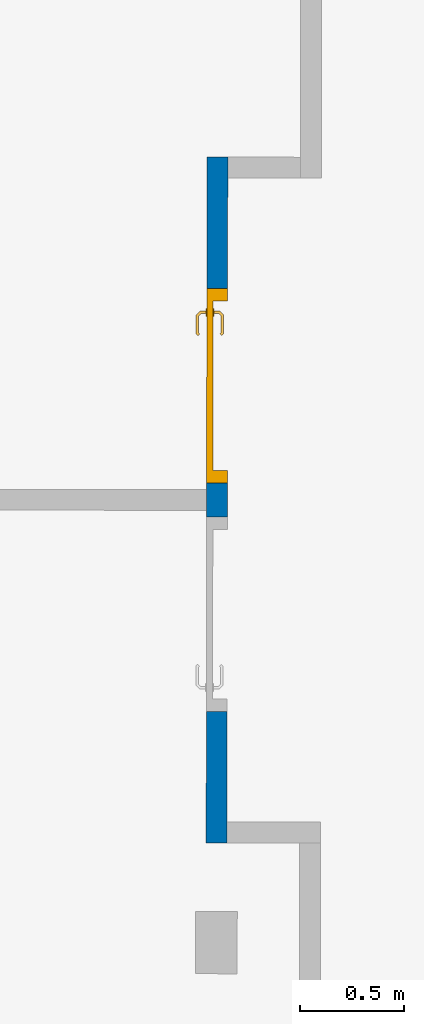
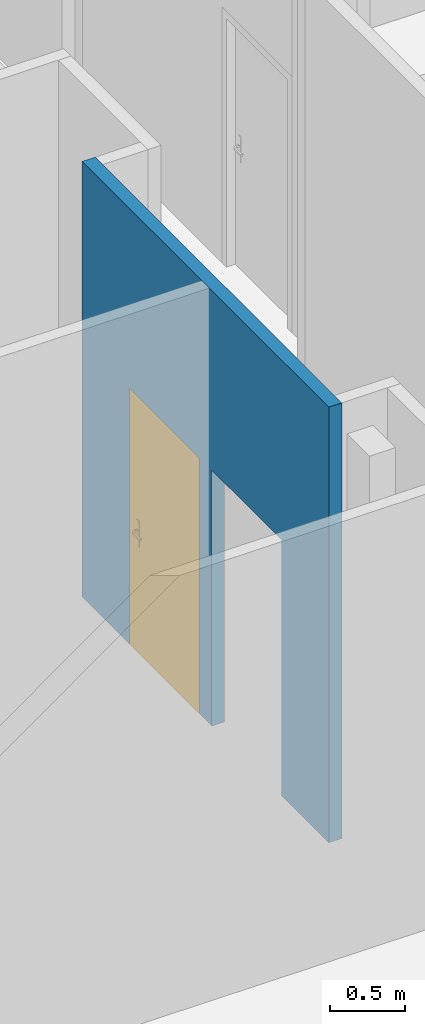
# One storey, part 83 of 101: 1 door, 1 wall, 2 openings.
"""IFC2X3 building model written with IfcOpenShell, lengths in metres."""

from ifc_helpers import new_model, entity, si_unit, converted_unit, derived_unit, direction, frame, frame_2d, origin, place, context, subcontext, project, spatial, rectangle, extrude, faceted_brep, source, transform, mapped, material, material_list, layer, layer_set, layer_usage, type_object, type_shapes, element, fill, save


model = new_model("IFC2X3")

# Units and contexts
model_context = context("Model", 3, precision=1e-05, world=origin(), true_north=direction((6.123233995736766e-17, 1.0)))
body_context = subcontext(model_context, "Body", "Model", "MODEL_VIEW")
ifc_project = project(units=[si_unit("LENGTHUNIT", "METRE"), si_unit("AREAUNIT", "SQUARE_METRE"), converted_unit("PLANEANGLEUNIT", "DEGREE", entity("IfcPlaneAngleMeasure", 0.017453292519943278), si_unit("PLANEANGLEUNIT", "RADIAN"), dimensions=[0, 0, 0, 0, 0, 0, 0]), derived_unit("THERMALTRANSMITTANCEUNIT", [(si_unit("MASSUNIT", "GRAM", prefix="KILO"), 1), (si_unit("THERMODYNAMICTEMPERATUREUNIT", "KELVIN"), -1), (si_unit("TIMEUNIT", "SECOND"), -3)])], contexts=[model_context])

# Site, building, storey
site_placement = place(None, frame((1253.6752467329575, 2072.143113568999, 91.49999999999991), z_axis=(0.0, 0.0, 1.0), x_axis=(0.7237211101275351, 0.6900925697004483, 0.0)))
site = spatial("IfcSite", under=ifc_project, at=site_placement, Name="Surface", CompositionType="ELEMENT")
building_placement = place(site_placement, origin())
building = spatial("IfcBuilding", under=site, at=building_placement, CompositionType="ELEMENT")
storey_placement = place(building_placement, origin())
storey = spatial("IfcBuildingStorey", under=building, at=storey_placement, Name="0- Rdc", CompositionType="ELEMENT", Elevation=-5.764692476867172e-13)

# Wall, openings, door
ifc_material_1 = material(Name="OMD_Béton blanc")
ifc_layer = layer(ifc_material_1, 0.1)
ifc_layer_set = layer_set([ifc_layer], Name="Mur de base:MUR 10")
ifc_layer_usage = layer_usage(ifc_layer_set, "AXIS2", "NEGATIVE", 0.05)
wall_type = type_object("IfcWallType", Name="Mur de base:MUR 10", PredefinedType="STANDARD", material=ifc_layer_set)
wall_placement = place(storey_placement, frame((188.0728854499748, -8.398407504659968, 0.0), z_axis=(0.0, 0.0, 1.0), x_axis=(-0.6909838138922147, -0.7228702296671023, 0.0)))
wall = element("IfcWallStandardCase", 1, at=wall_placement, inside=storey, type_object=wall_type, material=ifc_layer_usage, Name="Mur de base:MUR 10", ObjectType="Mur de base:MUR 10", context=body_context, shape_type="SweptSolid", body=[
    extrude(rectangle(XDim=3.3000000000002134, YDim=0.10000000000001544, at=frame_2d((1.6500000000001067, 3.4867941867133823e-15), x_axis=(-1.0, 0.0))), origin(), (0.0, 0.0, 1.0), 3.5499999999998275),
])
opening_1_placement = place(wall_placement, frame((1.5675000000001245, 0.05000000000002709, 0.0)))
opening_1 = element("IfcOpeningElement", 2, at=opening_1_placement, cuts=wall, Name="OMD_Porte 1V tunnel:80x204:1", ObjectType="Opening", context=body_context, shape_type="SweptSolid", body=[
    extrude(rectangle(XDim=2.0850000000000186, YDim=0.9349999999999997, at=frame_2d((1.0425000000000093, 0.46749999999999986), x_axis=(1.0, 0.0))), frame((0.0, 0.0, 0.0), z_axis=(0.0, -1.0, 0.0), x_axis=(0.0, 0.0, 1.0)), (0.0, 0.0, 1.0), 0.09999999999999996),
])
opening_2_placement = place(wall_placement, frame((2.6675000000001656, 0.050000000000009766, 0.0)))
element("IfcOpeningElement", 3, at=opening_2_placement, cuts=wall, Name="OMD_Porte 1V tunnel:80x204:1", ObjectType="Opening", context=body_context, shape_type="SweptSolid", body=[
    extrude(rectangle(XDim=2.0850000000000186, YDim=0.9349999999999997, at=frame_2d((1.0425000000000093, 0.46750000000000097), x_axis=(1.0, 0.0))), frame((0.0, 0.0, 0.0), z_axis=(0.0, -1.0, 0.0), x_axis=(0.0, 0.0, 1.0)), (0.0, 0.0, 1.0), 0.09999999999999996),
])
ifc_material_2 = material(Name="Porte - Poignée")
ifc_material_3 = material(Name="OMD_Peinture mur")
ifc_material_4 = material(Name="OMD_Bois")
ifc_material_list = material_list([ifc_material_2, ifc_material_3, ifc_material_4])
door_style = type_object("IfcDoorStyle", Name="OMD_Porte 1V tunnel:80x204", ConstructionType="NOTDEFINED", OperationType="NOTDEFINED", ParameterTakesPrecedence=False, Sizeable=False, material=ifc_material_list)
shared_shape = source(origin(), body_context, "Body", "Brep", [
    faceted_brep([(0.21297470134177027, 0.03500000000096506, 1.0077804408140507), (0.20900000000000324, 0.03500000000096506, 1.0069999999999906), (0.208999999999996, 0.03500000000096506, 0.9929999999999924), (0.21297470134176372, 0.03500000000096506, 0.9922195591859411), (0.21702529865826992, 0.03500000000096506, 0.9922195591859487), (0.22100000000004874, 0.03500000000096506, 0.9930000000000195), (0.22100000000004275, 0.03500000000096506, 1.0069999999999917), (0.2170252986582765, 0.03500000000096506, 1.007780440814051), (0.22100000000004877, 0.05748520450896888, 0.9930000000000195), (0.22100000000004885, 0.057485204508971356, 1.0069999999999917), (0.21702529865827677, 0.059131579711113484, 1.007780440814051), (0.23083890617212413, 0.07294518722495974, 1.007780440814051), (0.2291610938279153, 0.07699578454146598, 1.0077804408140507), (0.21297470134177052, 0.060809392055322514, 1.0077804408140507), (0.3206847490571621, 0.0664673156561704, 1.0077804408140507), (0.32354895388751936, 0.06933152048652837, 1.0077804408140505), (0.31588468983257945, 0.07699578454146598, 1.0077804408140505), (0.31420687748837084, 0.07294518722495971, 1.0077804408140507), (0.20900000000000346, 0.06245576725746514, 1.0069999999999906), (0.20900000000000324, 0.06245576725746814, 0.9929999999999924), (0.21297470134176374, 0.06080939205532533, 0.9922195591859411), (0.22916109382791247, 0.07699578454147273, 0.9922195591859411), (0.23083890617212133, 0.07294518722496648, 0.9922195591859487), (0.21702529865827, 0.05913157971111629, 0.9922195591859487), (0.32354895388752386, 0.06933152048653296, 0.9922195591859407), (0.3206847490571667, 0.06646731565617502, 0.9922195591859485), (0.3142068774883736, 0.07294518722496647, 0.9922195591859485), (0.3158846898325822, 0.07699578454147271, 0.9922195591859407), (0.23248528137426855, 0.0689704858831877, 0.9930000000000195), (0.23248528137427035, 0.06897048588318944, 1.0069999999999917), (0.22751471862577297, 0.0809704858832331, 1.0069999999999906), (0.22751471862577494, 0.08097048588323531, 0.9929999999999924), (0.2725228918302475, 0.06897048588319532, 0.9930000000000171), (0.3125605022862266, 0.06897048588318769, 0.9930000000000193), (0.31256050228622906, 0.06897048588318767, 1.0069999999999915), (0.2725228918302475, 0.0689704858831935, 1.0069999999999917), (0.2725228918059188, 0.07512492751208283, 1.0078781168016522), (0.31753106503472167, 0.08097048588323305, 1.0069999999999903), (0.2776005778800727, 0.08097048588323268, 1.0069999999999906), (0.31753106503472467, 0.08097048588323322, 0.9929999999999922), (0.2674452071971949, 0.08097048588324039, 0.9929999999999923), (0.2725228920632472, 0.07512492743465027, 0.9921218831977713), (0.317874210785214, 0.06365677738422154, 0.9930000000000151), (0.32635949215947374, 0.07214205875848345, 0.99299999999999), (0.3263594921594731, 0.07214205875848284, 1.0069999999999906), (0.317874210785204, 0.06365677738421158, 1.0069999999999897)], [[[0, 1, 2, 3, 4, 5, 6, 7]], [[6, 5, 8, 9]], [[9, 10, 7, 6]], [[10, 11, 12, 13, 0, 7]], [[14, 15, 16, 17]], [[13, 18, 1, 0]], [[2, 1, 18, 19]], [[19, 20, 3, 2]], [[20, 21, 22, 23, 4, 3]], [[24, 25, 26, 27]], [[23, 8, 5, 4]], [[9, 8, 28, 29]], [[29, 11, 10, 9]], [[12, 30, 18, 13]], [[19, 18, 30, 31]], [[31, 21, 20, 19]], [[22, 28, 8, 23]], [[29, 28, 32, 33, 34, 35]], [[11, 35, 36]], [[16, 37, 38]], [[30, 12, 38]], [[38, 12, 36]], [[36, 35, 17]], [[17, 16, 36]], [[35, 11, 29]], [[34, 17, 35]], [[11, 36, 12]], [[38, 36, 16]], [[31, 30, 38, 37, 39, 40]], [[40, 41, 21]], [[41, 40, 27]], [[21, 31, 40]], [[39, 27, 40]], [[41, 32, 22]], [[22, 21, 41]], [[26, 32, 41]], [[28, 22, 32]], [[32, 26, 33]], [[26, 41, 27]], [[42, 25, 24, 43, 44, 15, 14, 45]], [[34, 33, 42, 45]], [[45, 14, 17, 34]], [[15, 44, 37, 16]], [[39, 37, 44, 43]], [[43, 24, 27, 39]], [[25, 42, 33, 26]]]),
    faceted_brep([(0.21297470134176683, -0.004999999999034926, 1.0077804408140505), (0.2170252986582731, -0.004999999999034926, 1.007780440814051), (0.2210000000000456, -0.004999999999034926, 1.006999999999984), (0.22100000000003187, -0.004999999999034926, 0.9930000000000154), (0.21702529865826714, -0.004999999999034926, 0.9922195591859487), (0.21297470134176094, -0.004999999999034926, 0.992219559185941), (0.20900000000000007, -0.004999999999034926, 0.992999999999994), (0.20900000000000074, -0.004999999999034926, 1.0069999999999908), (0.20900000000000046, -0.03265095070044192, 1.0069999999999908), (0.21297470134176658, -0.03100457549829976, 1.0077804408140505), (0.22902358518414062, -0.04705345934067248, 1.0077804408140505), (0.2307013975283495, -0.04300286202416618, 1.007780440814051), (0.21702529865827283, -0.02932676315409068, 1.007780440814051), (0.3235218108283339, -0.039389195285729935, 1.0077804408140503), (0.3206576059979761, -0.03652499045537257, 1.0077804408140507), (0.3141797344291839, -0.04300286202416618, 1.0077804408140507), (0.31585754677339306, -0.04705345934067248, 1.0077804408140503), (0.22100000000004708, -0.027680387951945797, 1.0069999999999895), (0.22100000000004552, -0.02768038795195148, 0.9930000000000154), (0.21702529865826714, -0.029326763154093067, 0.9922195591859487), (0.23070139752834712, -0.04300286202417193, 0.9922195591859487), (0.2290235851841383, -0.0470534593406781, 0.992219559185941), (0.21297470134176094, -0.031004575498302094, 0.992219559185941), (0.32065760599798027, -0.036524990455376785, 0.9922195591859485), (0.3235218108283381, -0.03938919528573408, 0.9922195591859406), (0.31585754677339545, -0.047053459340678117, 0.9922195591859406), (0.3141797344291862, -0.04300286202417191, 0.9922195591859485), (0.20899999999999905, -0.032650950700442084, 0.9929999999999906), (0.22737720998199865, -0.051028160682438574, 1.0069999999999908), (0.23234777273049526, -0.03902816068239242, 1.0069999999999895), (0.23234777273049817, -0.03902816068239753, 0.9930000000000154), (0.22737720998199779, -0.051028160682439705, 0.9929999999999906), (0.2673076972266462, -0.05102816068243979, 1.0069999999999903), (0.272440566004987, -0.0451828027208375, 1.0078781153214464), (0.3175039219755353, -0.05102816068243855, 1.0069999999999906), (0.27244056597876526, -0.039028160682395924, 1.0069999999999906), (0.3125333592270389, -0.03902816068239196, 1.0069999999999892), (0.31253335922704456, -0.03902816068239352, 0.9930000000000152), (0.27244056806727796, -0.03902816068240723, 0.9930000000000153), (0.27244056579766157, -0.04518280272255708, 0.9921218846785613), (0.3175039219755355, -0.051028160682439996, 0.9929999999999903), (0.27757344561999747, -0.051028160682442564, 0.9929999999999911), (0.3178470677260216, -0.03371445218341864, 1.0069999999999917), (0.3263323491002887, -0.04219973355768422, 1.0069999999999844), (0.3263323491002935, -0.04219973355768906, 0.9929999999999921), (0.31784706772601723, -0.033714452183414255, 0.9930000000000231)], [[[0, 1, 2, 3, 4, 5, 6, 7]], [[8, 9, 0, 7]], [[9, 10, 11, 12, 1, 0]], [[13, 14, 15, 16]], [[12, 17, 2, 1]], [[3, 2, 17, 18]], [[18, 19, 4, 3]], [[19, 20, 21, 22, 5, 4]], [[23, 24, 25, 26]], [[22, 27, 6, 5]], [[7, 6, 27, 8]], [[28, 10, 9, 8]], [[11, 29, 17, 12]], [[18, 17, 29, 30]], [[30, 20, 19, 18]], [[21, 31, 27, 22]], [[8, 27, 31, 28]], [[32, 33, 10]], [[33, 32, 16]], [[10, 28, 32]], [[34, 16, 32]], [[33, 35, 11]], [[11, 10, 33]], [[15, 35, 33]], [[29, 11, 35]], [[35, 15, 36]], [[15, 33, 16]], [[30, 29, 35, 36, 37, 38]], [[20, 38, 39]], [[25, 40, 41]], [[31, 21, 41]], [[41, 21, 39]], [[39, 38, 26]], [[26, 25, 39]], [[38, 20, 30]], [[37, 26, 38]], [[20, 39, 21]], [[41, 39, 25]], [[28, 31, 41, 40, 34, 32]], [[42, 14, 13, 43, 44, 24, 23, 45]], [[43, 13, 16, 34]], [[14, 42, 36, 15]], [[37, 36, 42, 45]], [[45, 23, 26, 37]], [[24, 44, 40, 25]], [[34, 40, 44, 43]]]),
    faceted_brep([(0.22535276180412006, 0.030000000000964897, 0.8660039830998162), (0.2350000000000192, 0.030000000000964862, 0.8700000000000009), (0.2350000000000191, 0.030000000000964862, 1.0800000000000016), (0.2253527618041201, 0.030000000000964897, 1.0839960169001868), (0.21500000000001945, 0.030000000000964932, 1.0853589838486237), (0.20464723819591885, 0.03000000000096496, 1.0839960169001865), (0.19500000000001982, 0.030000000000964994, 1.0800000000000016), (0.19500000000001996, 0.030000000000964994, 0.8700000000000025), (0.20464723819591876, 0.03000000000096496, 0.866003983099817), (0.21500000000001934, 0.030000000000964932, 0.8646410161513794), (0.22535276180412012, 0.0350000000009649, 1.0839960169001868), (0.2350000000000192, 0.03500000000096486, 1.0800000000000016), (0.23500000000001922, 0.03500000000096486, 0.8700000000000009), (0.22535276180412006, 0.0350000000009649, 0.8660039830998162), (0.21500000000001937, 0.03500000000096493, 0.8646410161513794), (0.20464723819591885, 0.03500000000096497, 0.866003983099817), (0.19500000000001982, 0.035000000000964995, 0.8700000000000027), (0.19500000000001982, 0.035000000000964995, 1.0800000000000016), (0.20464723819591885, 0.03500000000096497, 1.0839960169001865), (0.21500000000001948, 0.03500000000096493, 1.0853589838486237)], [[[0, 1, 2, 3, 4, 5, 6, 7, 8, 9]], [[10, 11, 12, 13, 14, 15, 16, 17, 18, 19]], [[11, 10, 3, 2]], [[3, 10, 19, 4]], [[19, 18, 5, 4]], [[18, 17, 6, 5]], [[7, 6, 17, 16]], [[16, 15, 8, 7]], [[8, 15, 14, 9]], [[14, 13, 0, 9]], [[13, 12, 1, 0]], [[2, 1, 12, 11]]]),
    faceted_brep([(0.22535276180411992, -0.004999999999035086, 0.8660039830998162), (0.2350000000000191, -0.004999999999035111, 0.8700000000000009), (0.23500000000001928, -0.004999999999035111, 1.0800000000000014), (0.22535276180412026, -0.004999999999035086, 1.0839960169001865), (0.2150000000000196, -0.004999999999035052, 1.0853589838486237), (0.20464723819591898, -0.0049999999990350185, 1.0839960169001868), (0.19500000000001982, -0.004999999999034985, 1.0800000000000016), (0.19500000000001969, -0.004999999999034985, 0.8700000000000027), (0.20464723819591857, -0.0049999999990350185, 0.8660039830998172), (0.21500000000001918, -0.004999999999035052, 0.8646410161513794), (0.22535276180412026, 0.0, 1.0839960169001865), (0.2350000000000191, 0.0, 1.0800000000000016), (0.2350000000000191, 0.0, 0.8700000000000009), (0.22535276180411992, 0.0, 0.8660039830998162), (0.21500000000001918, 0.0, 0.8646410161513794), (0.20464723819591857, 0.0, 0.8660039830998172), (0.19500000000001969, 0.0, 0.8700000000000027), (0.19500000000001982, 0.0, 1.0800000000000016), (0.20464723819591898, 0.0, 1.0839960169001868), (0.2150000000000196, 0.0, 1.0853589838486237)], [[[0, 1, 2, 3, 4, 5, 6, 7, 8, 9]], [[10, 11, 12, 13, 14, 15, 16, 17, 18, 19]], [[16, 15, 8, 7]], [[8, 15, 14, 9]], [[14, 13, 0, 9]], [[13, 12, 1, 0]], [[2, 1, 12, 11]], [[11, 10, 3, 2]], [[3, 10, 19, 4]], [[19, 18, 5, 4]], [[18, 17, 6, 5]], [[7, 6, 17, 16]]]),
    faceted_brep([(0.14500000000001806, 0.030000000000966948, 0.0), (0.9900000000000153, 0.030000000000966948, 0.0), (0.9900000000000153, 0.0, 0.0), (0.14500000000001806, 0.0, 0.0), (0.14500000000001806, 0.030000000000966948, 2.04), (0.14500000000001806, 0.0, 2.04), (0.9900000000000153, 0.0, 2.04), (0.9900000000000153, 0.030000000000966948, 2.04)], [[[0, 1, 2, 3]], [[4, 0, 3, 5]], [[5, 3, 2, 6]], [[6, 2, 1, 7]], [[7, 1, 0, 4]], [[4, 5, 6, 7]]]),
    faceted_brep([(0.10000000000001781, 0.0, 0.0), (0.10000000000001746, 0.10000000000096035, 0.0), (0.16000000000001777, 0.10000000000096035, 0.0), (0.16000000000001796, 0.03000000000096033, 0.0), (0.145000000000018, 0.03000000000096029, 0.0), (0.14500000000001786, 0.0, 0.0), (0.145000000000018, 0.0, 2.04), (0.9900000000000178, 0.0, 2.0400000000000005), (0.9900000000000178, 0.0, 0.0), (1.0350000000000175, 0.0, 0.0), (1.0350000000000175, 0.0, 2.085), (0.10000000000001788, 0.0, 2.085), (0.14500000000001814, 0.030000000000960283, 2.04), (0.16000000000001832, 0.03000000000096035, 2.0249999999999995), (0.9750000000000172, 0.03000000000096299, 2.0249999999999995), (0.9750000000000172, 0.03000000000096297, 0.0), (0.9900000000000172, 0.03000000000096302, 0.0), (0.9900000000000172, 0.03000000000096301, 2.0399999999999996), (0.16000000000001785, 0.10000000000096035, 2.0249999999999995), (0.1000000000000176, 0.10000000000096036, 2.085), (1.0350000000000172, 0.10000000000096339, 2.085), (1.0350000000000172, 0.10000000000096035, 0.0), (0.9750000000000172, 0.10000000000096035, 0.0), (0.9750000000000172, 0.10000000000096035, 2.025)], [[[0, 1, 2, 3, 4, 5]], [[5, 6, 7, 8, 9, 10, 11, 0]], [[4, 12, 6, 5]], [[3, 13, 14, 15, 16, 17, 12, 4]], [[2, 18, 13, 3]], [[1, 19, 20, 21, 22, 23, 18, 2]], [[0, 11, 19, 1]], [[10, 9, 21, 20]], [[9, 8, 16, 15, 22, 21]], [[17, 16, 8, 7]], [[23, 22, 15, 14]], [[12, 17, 7, 6]], [[18, 23, 14, 13]], [[11, 10, 20, 19]]]),
])
type_shapes(door_style, [shared_shape])
door_placement = place(opening_1_placement, frame((-1.0349999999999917, -0.10000000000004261, 0.0)))
door = element("IfcDoor", 4, at=door_placement, inside=storey, type_object=door_style, material=ifc_material_list, Name="OMD_Porte 1V tunnel:80x204", ObjectType="OMD_Porte 1V tunnel:80x204", OverallHeight=2.0850000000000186, OverallWidth=0.9350000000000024, context=body_context, shape_type="MappedRepresentation", body=[
    mapped(shared_shape, transform((0.0, 0.0, 0.0), scale=1.0)),
])
fill(opening_1, door)

save(model, "model.ifc")
